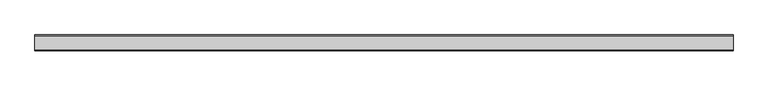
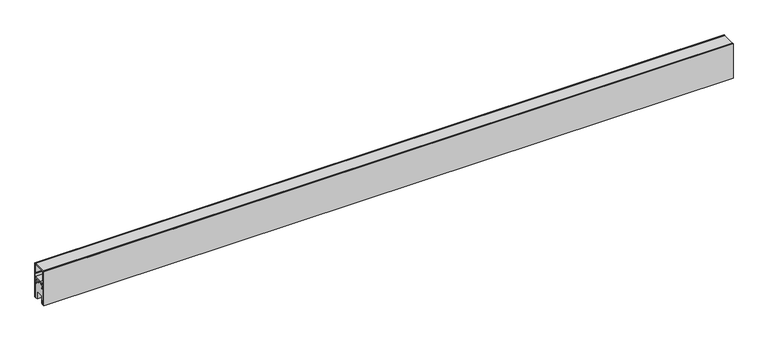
"""IFC4 building model written with IfcOpenShell, lengths in millimetres: light fixture geometry."""

from ifc_helpers import new_model, si_unit, frame, origin, place, context, project, spatial, polyline, outline, extrude, source, transform, mapped, element, save


def light_fixture_b228b45f(model_context):
    return source(origin(), model_context, "Body", "SweptSolid", [
        extrude(outline(polyline([(-14.217015, -609.6), (14.2170856, -609.6), (14.2170856, -628.8616667), (12.947015, -628.8616667), (12.947015, -610.5876367), (-12.947015, -610.5876367), (-12.947015, -628.8616667), (-14.217015, -628.8616667), (-14.217015, -609.6)])), frame((-1454.15, 0.0, 0.0), z_axis=(1.0, 0.0, 0.0), x_axis=(0.0, 1.0, 0.0)), (0.0, 0.0, 1.0), 1454.15),
        extrude(outline(polyline([(16.4919982, -609.6), (16.4919982, -685.7997212), (14.4814042, -685.7997212), (14.4814042, -652.2511544), (11.3066494, -652.2511544), (11.3066494, -650.4868413), (14.4814042, -650.4868413), (14.4814042, -641.35007), (-14.4814042, -641.35007), (-14.4814042, -650.4868413), (-11.3066494, -650.4868413), (-11.3066494, -652.2511544), (-14.4814042, -652.2511544), (-14.4814042, -685.8), (-16.5273013, -685.8), (-16.5273013, -609.6), (-14.4814042, -609.6), (-14.4814042, -629.6378556), (-12.7179317, -629.6378556), (-12.7179317, -631.4374717), (-14.4814042, -631.4374717), (-14.4814042, -639.0570515), (14.4814042, -639.0570515), (14.4814042, -631.4374717), (12.6826286, -631.4374717), (12.6826286, -629.6378556), (14.4814042, -629.6378556), (14.4814042, -609.6), (16.4919982, -609.6)])), frame((-1454.15, 0.0, 0.0), z_axis=(1.0, 0.0, 0.0), x_axis=(0.0, 1.0, 0.0)), (0.0, 0.0, 1.0), 1454.15),
        extrude(outline(polyline([(4.4852957, -646.6892936), (14.0112902, -646.6892936), (14.0112902, -650.443833), (9.3959035, -650.443833), (9.3959035, -652.6694051), (14.0112902, -652.6694051), (14.0112902, -675.6160039), (12.8989991, -675.6160039), (12.8989991, -685.4890989), (8.1003302, -685.4890989), (8.1003302, -668.801409), (-8.1706129, -668.801409), (-8.1706129, -685.4895938), (-12.8985749, -685.4895938), (-12.8985749, -675.6160039), (-14.0112902, -675.6160039), (-14.0112902, -652.6694051), (-9.3959035, -652.6694051), (-9.3959035, -650.443833), (-14.0112902, -650.443833), (-14.0112902, -646.6892936), (-4.4852957, -646.6892936), (-4.4852957, -644.6027314), (-3.1452024, -643.6290966), (3.1452024, -643.6290966), (4.4852957, -644.6027314), (4.4852957, -646.6892936)])), frame((-1454.15, 0.0, 0.0), z_axis=(1.0, 0.0, 0.0), x_axis=(0.0, 1.0, 0.0)), (0.0, 0.0, 1.0), 1454.15),
    ])


if __name__ == "__main__":
    model = new_model("IFC4")
    model_context = context("Model", 3, world=origin())
    ifc_project = project(units=[si_unit("LENGTHUNIT", "METRE", prefix="MILLI")], contexts=[model_context])
    site = spatial("IfcSite", under=ifc_project)
    building = spatial("IfcBuilding", under=site)
    placement = place(None, origin())
    light_fixture_shape = light_fixture_b228b45f(model_context)
    element("IfcLightFixture", 1, ObjectType="SF-LD-AXT : 5' (57.25\", 1454mm)", at=placement, inside=building, context=model_context, shape_type="MappedRepresentation", body=[
        mapped(light_fixture_shape, transform((0.0, 0.0, 0.0), x_axis=(1.0, 0.0, 0.0), y_axis=(0.0, 1.0, 0.0), z_axis=(0.0, 0.0, 1.0))),
    ])
    save(model, "model.ifc")
